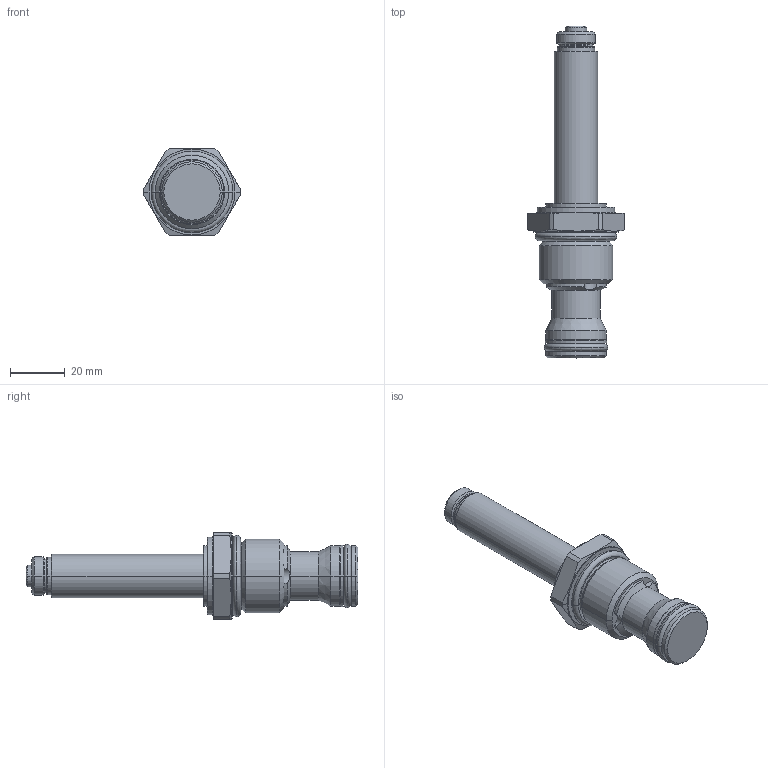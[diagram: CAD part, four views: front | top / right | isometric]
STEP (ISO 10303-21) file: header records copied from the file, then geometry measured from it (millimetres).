
FILE_DESCRIPTION((''),'2;1');
FILE_NAME('5122255_SW0002','2009-03-25T',('JCS'),(''),'PRO/ENGINEER BY PARAMETRIC TECHNOLOGY CORPORATION, 2008510','PRO/ENGINEER BY PARAMETRIC TECHNOLOGY CORPORATION, 2008510','');
FILE_SCHEMA(('CONFIG_CONTROL_DESIGN'));
Length unit declared in the file: inch
Products named in the file (1): 5122255_SW0002
Bounding box: 35.69 x 121.65 x 31.75 mm (x, y, z)
Volume: 39475.3 mm3; surface area: 11345.1 mm2
Topology: 3 solids, 4 shells, 159 faces, 348 edges, 201 vertices
Faces by surface type: cone 50, cylinder 48, plane 25, torus 20, revolution 16
Entity records: 4885 total; most frequent: CARTESIAN_POINT 1319, DIRECTION 790, ORIENTED_EDGE 692, EDGE_CURVE 346, AXIS2_PLACEMENT_3D 329, VERTEX_POINT 201, CIRCLE 186, EDGE_LOOP 171
